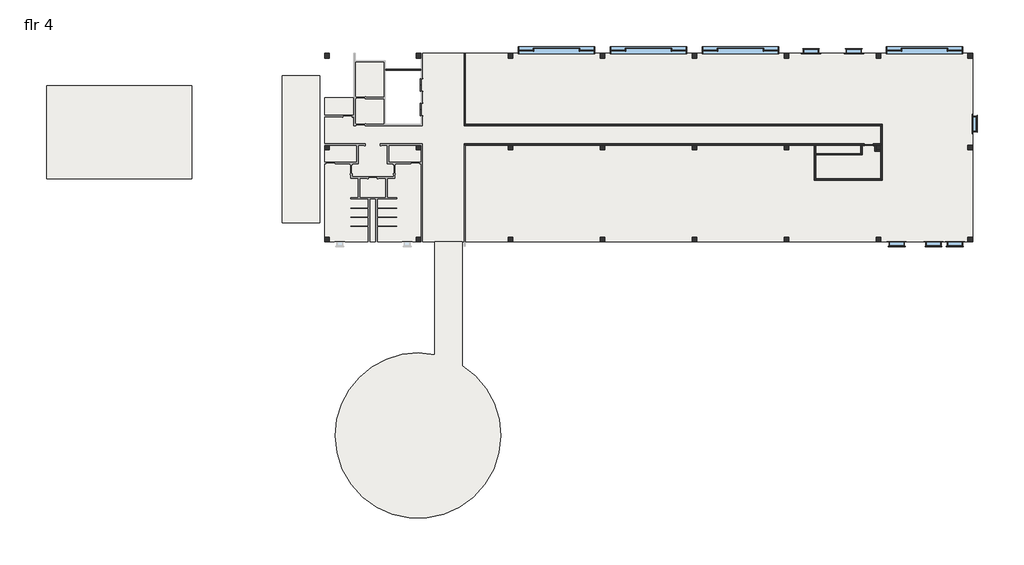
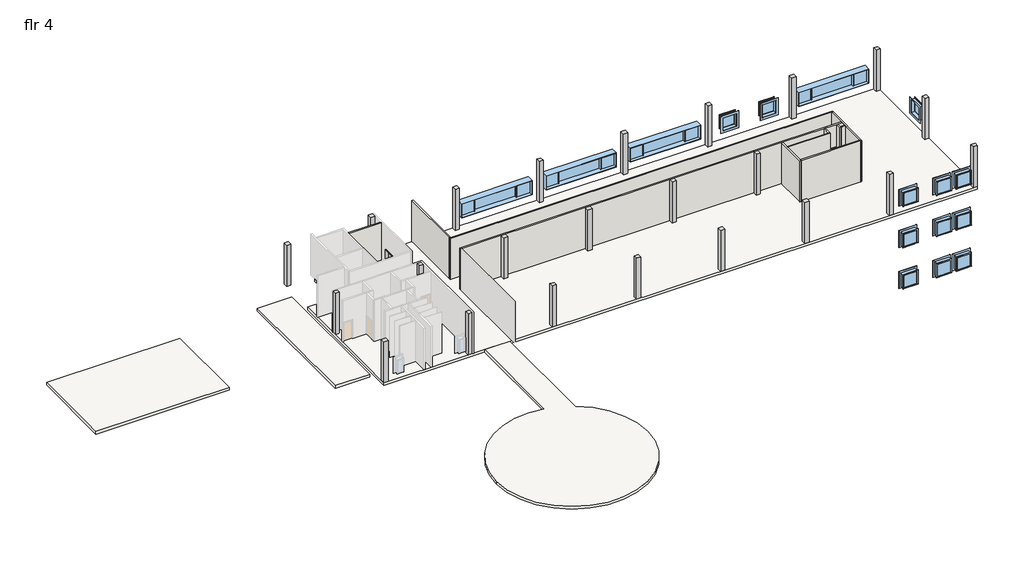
# One storey, part 2 of 2: 24 columns, 20 windows, 11 walls, 3 slabs, 2 proxies, 1 door, 1 roof.
"""IFC4 building model written with IfcOpenShell, lengths in millimetres."""

from ifc_helpers import new_model, si_unit, point, frame, frame_2d, origin, place, context, project, spatial, polyline, circle_curve, trimmed, segment, composite_curve, outline, extrude, faceted_brep, transform, mapped, element, save
from components import proxy_ae548678, column_773d994b, door_9814c99b, fixed_25_x5_r1_fixed_25_x5_r1_81c53d64, fixed_5_x5_e2f24dca

model = new_model("IFC4")

# Units and contexts
model_context = context("Model", 3, world=origin())
ifc_project = project(units=[si_unit("LENGTHUNIT", "METRE", prefix="MILLI")], contexts=[model_context])

# Site, building, storey
site = spatial("IfcSite", under=ifc_project)
building = spatial("IfcBuilding", under=site)
storey = spatial("IfcBuildingStorey", under=building, Name="flr 4", Elevation=14935.2)

# Proxies
placement = place(None, origin())
proxy_shape = proxy_ae548678(model_context)
element("IfcBuildingElementProxy", 1, Name="Elevator-Center : 72\" x 114\" Hospital min.", ObjectType="Elevator-Center : 72\" x 114\" Hospital min.", at=placement, inside=storey, context=model_context, shape_type="MappedRepresentation", body=[
    mapped(proxy_shape, transform((-105880.840902, 38348.4927472, 14935.2), x_axis=(0.0, 1.0, 0.0), y_axis=(-1.0, 0.0, 0.0), z_axis=(0.0, 0.0, 1.0))),
])
element("IfcBuildingElementProxy", 2, Name="Elevator-Center : 72\" x 114\" Hospital min.", ObjectType="Elevator-Center : 72\" x 114\" Hospital min.", at=placement, inside=storey, context=model_context, shape_type="MappedRepresentation", body=[
    mapped(proxy_shape, transform((-105880.840902, 40786.8927472, 14935.2), x_axis=(0.0, 1.0, 0.0), y_axis=(-1.0, 0.0, 0.0), z_axis=(0.0, 0.0, 1.0))),
])

# Columns
element("IfcColumn", 3, ObjectType="Rectangular Column : 18\" x 18\"", at=placement, inside=storey, context=model_context, shape_type="SweptSolid", body=[
    extrude(outline(polyline([(-105950.690902, 25543.0071029), (-105950.690902, 25085.8071029), (-106407.890902, 25085.8071029), (-106407.890902, 25543.0071029), (-105950.690902, 25543.0071029)])), frame((0.0, 0.0, 14935.2), z_axis=(0.0, 0.0, 1.0), x_axis=(1.0, 0.0, 0.0)), (0.0, 0.0, 1.0), 4724.4),
])
element("IfcColumn", 4, ObjectType="Rectangular Column : 18\" x 18\"", at=placement, inside=storey, context=model_context, shape_type="SweptSolid", body=[
    extrude(outline(polyline([(-115094.690902, 34687.0071029), (-115094.690902, 34229.8071029), (-115551.890902, 34229.8071029), (-115551.890902, 34687.0071029), (-115094.690902, 34687.0071029)])), frame((0.0, 0.0, 14935.2), z_axis=(0.0, 0.0, 1.0), x_axis=(1.0, 0.0, 0.0)), (0.0, 0.0, 1.0), 4724.4),
])
element("IfcColumn", 5, ObjectType="Rectangular Column : 18\" x 18\"", at=placement, inside=storey, context=model_context, shape_type="SweptSolid", body=[
    extrude(outline(polyline([(-105950.690902, 34687.0071029), (-105950.690902, 34229.8071029), (-106407.890902, 34229.8071029), (-106407.890902, 34687.0071029), (-105950.690902, 34687.0071029)])), frame((0.0, 0.0, 14935.2), z_axis=(0.0, 0.0, 1.0), x_axis=(1.0, 0.0, 0.0)), (0.0, 0.0, 1.0), 4724.4),
])
element("IfcColumn", 6, ObjectType="Rectangular Column : 18\" x 18\"", at=placement, inside=storey, context=model_context, shape_type="SweptSolid", body=[
    extrude(outline(polyline([(-96806.690902, 34687.0071029), (-96806.690902, 34229.8071029), (-97263.890902, 34229.8071029), (-97263.890902, 34687.0071029), (-96806.690902, 34687.0071029)])), frame((0.0, 0.0, 14935.2), z_axis=(0.0, 0.0, 1.0), x_axis=(1.0, 0.0, 0.0)), (0.0, 0.0, 1.0), 4724.4),
])
element("IfcColumn", 7, ObjectType="Rectangular Column : 18\" x 18\"", at=placement, inside=storey, context=model_context, shape_type="SweptSolid", body=[
    extrude(outline(polyline([(-87662.690902, 34687.0071029), (-87662.690902, 34229.8071029), (-88119.890902, 34229.8071029), (-88119.890902, 34687.0071029), (-87662.690902, 34687.0071029)])), frame((0.0, 0.0, 14935.2), z_axis=(0.0, 0.0, 1.0), x_axis=(1.0, 0.0, 0.0)), (0.0, 0.0, 1.0), 4724.4),
])
element("IfcColumn", 8, ObjectType="Rectangular Column : 18\" x 18\"", at=placement, inside=storey, context=model_context, shape_type="SweptSolid", body=[
    extrude(outline(polyline([(-78518.690902, 34687.0071029), (-78518.690902, 34229.8071029), (-78975.890902, 34229.8071029), (-78975.890902, 34687.0071029), (-78518.690902, 34687.0071029)])), frame((0.0, 0.0, 14935.2), z_axis=(0.0, 0.0, 1.0), x_axis=(1.0, 0.0, 0.0)), (0.0, 0.0, 1.0), 4724.4),
])
element("IfcColumn", 9, ObjectType="Rectangular Column : 18\" x 18\"", at=placement, inside=storey, context=model_context, shape_type="SweptSolid", body=[
    extrude(outline(polyline([(-69374.690902, 34687.0071029), (-69374.690902, 34229.8071029), (-69831.890902, 34229.8071029), (-69831.890902, 34687.0071029), (-69374.690902, 34687.0071029)])), frame((0.0, 0.0, 14935.2), z_axis=(0.0, 0.0, 1.0), x_axis=(1.0, 0.0, 0.0)), (0.0, 0.0, 1.0), 4724.4),
])
element("IfcColumn", 10, ObjectType="Rectangular Column : 18\" x 18\"", at=placement, inside=storey, context=model_context, shape_type="SweptSolid", body=[
    extrude(outline(polyline([(-60230.690902, 34687.0071029), (-60230.690902, 34229.8071029), (-60687.890902, 34229.8071029), (-60687.890902, 34687.0071029), (-60230.690902, 34687.0071029)])), frame((0.0, 0.0, 14935.2), z_axis=(0.0, 0.0, 1.0), x_axis=(1.0, 0.0, 0.0)), (0.0, 0.0, 1.0), 4724.4),
])
element("IfcColumn", 11, ObjectType="Rectangular Column : 18\" x 18\"", at=placement, inside=storey, context=model_context, shape_type="SweptSolid", body=[
    extrude(outline(polyline([(-105950.690902, 43831.0071029), (-105950.690902, 43373.8071029), (-106407.890902, 43373.8071029), (-106407.890902, 43831.0071029), (-105950.690902, 43831.0071029)])), frame((0.0, 0.0, 14935.2), z_axis=(0.0, 0.0, 1.0), x_axis=(1.0, 0.0, 0.0)), (0.0, 0.0, 1.0), 4724.4),
])
column_shape = column_773d994b(model_context)
element("IfcColumn", 12, ObjectType="Rectangular Column : 18\" x 18\"", at=placement, inside=storey, context=model_context, shape_type="MappedRepresentation", body=[
    mapped(column_shape, transform((-115323.290902, 25314.4071029, 0.0), x_axis=(1.0, 0.0, 0.0), y_axis=(0.0, 1.0, 0.0), z_axis=(0.0, 0.0, 1.0))),
])
element("IfcColumn", 13, ObjectType="Rectangular Column : 18\" x 18\"", at=placement, inside=storey, context=model_context, shape_type="MappedRepresentation", body=[
    mapped(column_shape, transform((-97035.290902, 25314.4071029, 0.0), x_axis=(1.0, 0.0, 0.0), y_axis=(0.0, 1.0, 0.0), z_axis=(0.0, 0.0, 1.0))),
])
element("IfcColumn", 14, ObjectType="Rectangular Column : 18\" x 18\"", at=placement, inside=storey, context=model_context, shape_type="MappedRepresentation", body=[
    mapped(column_shape, transform((-87891.290902, 25314.4071029, 0.0), x_axis=(1.0, 0.0, 0.0), y_axis=(0.0, 1.0, 0.0), z_axis=(0.0, 0.0, 1.0))),
])
element("IfcColumn", 15, ObjectType="Rectangular Column : 18\" x 18\"", at=placement, inside=storey, context=model_context, shape_type="MappedRepresentation", body=[
    mapped(column_shape, transform((-78747.290902, 25314.4071029, 0.0), x_axis=(1.0, 0.0, 0.0), y_axis=(0.0, 1.0, 0.0), z_axis=(0.0, 0.0, 1.0))),
])
element("IfcColumn", 16, ObjectType="Rectangular Column : 18\" x 18\"", at=placement, inside=storey, context=model_context, shape_type="MappedRepresentation", body=[
    mapped(column_shape, transform((-69603.290902, 25314.4071029, 0.0), x_axis=(1.0, 0.0, 0.0), y_axis=(0.0, 1.0, 0.0), z_axis=(0.0, 0.0, 1.0))),
])
element("IfcColumn", 17, ObjectType="Rectangular Column : 18\" x 18\"", at=placement, inside=storey, context=model_context, shape_type="MappedRepresentation", body=[
    mapped(column_shape, transform((-60459.290902, 25314.4071029, 0.0), x_axis=(1.0, 0.0, 0.0), y_axis=(0.0, 1.0, 0.0), z_axis=(0.0, 0.0, 1.0))),
])
element("IfcColumn", 18, ObjectType="Rectangular Column : 18\" x 18\"", at=placement, inside=storey, context=model_context, shape_type="MappedRepresentation", body=[
    mapped(column_shape, transform((-51315.290902, 25314.4071029, 0.0), x_axis=(1.0, 0.0, 0.0), y_axis=(0.0, 1.0, 0.0), z_axis=(0.0, 0.0, 1.0))),
])
element("IfcColumn", 19, ObjectType="Rectangular Column : 18\" x 18\"", at=placement, inside=storey, context=model_context, shape_type="MappedRepresentation", body=[
    mapped(column_shape, transform((-51315.290902, 34458.4071029, 0.0), x_axis=(1.0, 0.0, 0.0), y_axis=(0.0, 1.0, 0.0), z_axis=(0.0, 0.0, 1.0))),
])
element("IfcColumn", 20, ObjectType="Rectangular Column : 18\" x 18\"", at=placement, inside=storey, context=model_context, shape_type="MappedRepresentation", body=[
    mapped(column_shape, transform((-115323.290902, 43602.4071029, 0.0), x_axis=(1.0, 0.0, 0.0), y_axis=(0.0, 1.0, 0.0), z_axis=(0.0, 0.0, 1.0))),
])
element("IfcColumn", 21, ObjectType="Rectangular Column : 18\" x 18\"", at=placement, inside=storey, context=model_context, shape_type="MappedRepresentation", body=[
    mapped(column_shape, transform((-97035.290902, 43602.4071029, 0.0), x_axis=(1.0, 0.0, 0.0), y_axis=(0.0, 1.0, 0.0), z_axis=(0.0, 0.0, 1.0))),
])
element("IfcColumn", 22, ObjectType="Rectangular Column : 18\" x 18\"", at=placement, inside=storey, context=model_context, shape_type="MappedRepresentation", body=[
    mapped(column_shape, transform((-87891.290902, 43602.4071029, 0.0), x_axis=(1.0, 0.0, 0.0), y_axis=(0.0, 1.0, 0.0), z_axis=(0.0, 0.0, 1.0))),
])
element("IfcColumn", 23, ObjectType="Rectangular Column : 18\" x 18\"", at=placement, inside=storey, context=model_context, shape_type="MappedRepresentation", body=[
    mapped(column_shape, transform((-78747.290902, 43602.4071029, 0.0), x_axis=(1.0, 0.0, 0.0), y_axis=(0.0, 1.0, 0.0), z_axis=(0.0, 0.0, 1.0))),
])
element("IfcColumn", 24, ObjectType="Rectangular Column : 18\" x 18\"", at=placement, inside=storey, context=model_context, shape_type="MappedRepresentation", body=[
    mapped(column_shape, transform((-69603.290902, 43602.4071029, 0.0), x_axis=(1.0, 0.0, 0.0), y_axis=(0.0, 1.0, 0.0), z_axis=(0.0, 0.0, 1.0))),
])
element("IfcColumn", 25, ObjectType="Rectangular Column : 18\" x 18\"", at=placement, inside=storey, context=model_context, shape_type="MappedRepresentation", body=[
    mapped(column_shape, transform((-60459.290902, 43602.4071029, 0.0), x_axis=(1.0, 0.0, 0.0), y_axis=(0.0, 1.0, 0.0), z_axis=(0.0, 0.0, 1.0))),
])
element("IfcColumn", 26, ObjectType="Rectangular Column : 18\" x 18\"", at=placement, inside=storey, context=model_context, shape_type="MappedRepresentation", body=[
    mapped(column_shape, transform((-51315.290902, 43602.4071029, 0.0), x_axis=(1.0, 0.0, 0.0), y_axis=(0.0, 1.0, 0.0), z_axis=(0.0, 0.0, 1.0))),
])

# Door
door_shape = door_9814c99b(model_context)
element("IfcDoor", 27, ObjectType="Sgl Flush : 36\" x 84\"", at=placement, inside=storey, context=model_context, shape_type="MappedRepresentation", body=[
    mapped(door_shape, transform((-61399.090902, 34756.8571029, 14935.2), x_axis=(1.0, 0.0, 0.0), y_axis=(0.0, 1.0, 0.0), z_axis=(0.0, 0.0, 1.0))),
])

# Roof
element("IfcRoof", 28, ObjectType="Generic - 12\"", at=placement, inside=storey, context=model_context, shape_type="SweptSolid", body=[
    extrude(outline(polyline([(-143209.315902, 40630.6071029), (-128740.840902, 40630.6071029), (-128740.840902, 31340.7512968), (-143209.315902, 31340.7512968), (-143209.315902, 40630.6071029)])), frame((0.0, 0.0, 14935.2), z_axis=(0.0, 0.0, 1.0), x_axis=(1.0, 0.0, 0.0)), (0.0, 0.0, 1.0), 304.8),
])

# Slabs
element("IfcSlab", 29, ObjectType="Generic - 12\"", at=placement, inside=storey, context=model_context, shape_type="SweptSolid", body=[
    extrude(outline(polyline([(-119739.715902, 41618.0321029), (-116007.8828209, 41618.0321029), (-116007.8828209, 26993.9821029), (-119739.715902, 26993.9821029), (-119739.715902, 41618.0321029)])), frame((0.0, 0.0, 14630.4), z_axis=(0.0, 0.0, 1.0), x_axis=(1.0, 0.0, 0.0)), (0.0, 0.0, 1.0), 304.8),
])
element("IfcSlab", 30, ObjectType="Generic - 12\"", at=placement, inside=storey, context=model_context, shape_type="SweptSolid", body=[
    extrude(outline(composite_curve([segment(trimmed(circle_curve(frame_2d((-106255.490902, 5807.2071029)), 8229.6), [point((-101864.8074925, 12767.6823279))], [point((-98025.890902, 5807.2071029))], False, "CARTESIAN"), True, "CONTINUOUS"), segment(trimmed(circle_curve(frame_2d((-106255.490902, 5807.2071029)), 8229.6), [point((-98025.890902, 5807.2071029))], [point((-114485.090902, 5807.2071029))], False, "CARTESIAN"), True, "CONTINUOUS"), segment(trimmed(circle_curve(frame_2d((-106255.490902, 5807.2071029)), 8229.6), [point((-114485.090902, 5807.2071029))], [point((-104601.6574925, 13868.9160541))], False, "CARTESIAN"), True, "CONTINUOUS"), segment(polyline([(-104601.6574925, 13868.9160541), (-104601.6574925, 25084.2196029), (-101864.8074925, 25084.2196029), (-101864.8074925, 12767.6823279)]), True, "CONTINUOUS")], self_intersect=False)), frame((0.0, 0.0, 14630.4), z_axis=(0.0, 0.0, 1.0), x_axis=(1.0, 0.0, 0.0)), (0.0, 0.0, 1.0), 304.8),
])
element("IfcSlab", 31, ObjectType="Generic - 12\"", at=placement, inside=storey, context=model_context, shape_type="SweptSolid", body=[
    extrude(outline(polyline([(-51085.103402, 43832.5946029), (-51085.103402, 25084.2196029), (-115553.8578209, 25084.2196029), (-115553.8578209, 39436.8071029), (-112649.940902, 39436.8071029), (-112649.940902, 43119.8071029), (-109493.990902, 43119.8071029), (-109493.990902, 36795.2071029), (-105950.690902, 36795.2071029), (-105950.690902, 43832.5946029), (-51085.103402, 43832.5946029)])), frame((0.0, 0.0, 14630.4), z_axis=(0.0, 0.0, 1.0), x_axis=(1.0, 0.0, 0.0)), (0.0, 0.0, 1.0), 304.8),
])

# Walls
element("IfcWall", 32, ObjectType="Interior - 5 1/2\" Partition (1-hr)", at=placement, inside=storey, context=model_context, shape_type="SweptSolid", body=[
    extrude(outline(polyline([(-105950.690902, 42141.9071029), (-109493.990902, 42141.9071029), (-109493.990902, 42281.6071029), (-105950.690902, 42281.6071029), (-105950.690902, 42141.9071029)])), frame((0.0, 0.0, 14935.2), z_axis=(0.0, 0.0, 1.0), x_axis=(1.0, 0.0, 0.0)), (0.0, 0.0, 1.0), 4724.4),
])
element("IfcWall", 33, ObjectType="Interior - 5 1/2\" Partition (1-hr)", at=placement, inside=storey, context=model_context, shape_type="Brep", body=[
    faceted_brep([(-60941.890902, 34687.0071029, 17068.8), (-60941.890902, 34687.0071029, 14935.2), (-60827.590902, 34687.0071029, 14935.2), (-60687.890902, 34687.0071029, 14935.2), (-60230.690902, 34687.0071029, 14935.2), (-60230.690902, 34687.0071029, 19659.6), (-60687.890902, 34687.0071029, 19659.6), (-60827.590902, 34687.0071029, 19659.6), (-62065.840902, 34687.0071029, 19659.6), (-62205.540902, 34687.0071029, 19659.6), (-66688.640902, 34687.0071029, 19659.6), (-66828.340902, 34687.0071029, 19659.6), (-101537.440902, 34687.0071029, 19659.6), (-101677.140902, 34687.0071029, 19659.6), (-101677.140902, 34687.0071029, 14935.2), (-101537.440902, 34687.0071029, 14935.2), (-66828.340902, 34687.0071029, 14935.2), (-66688.640902, 34687.0071029, 14935.2), (-62205.540902, 34687.0071029, 14935.2), (-62065.840902, 34687.0071029, 14935.2), (-61856.290902, 34687.0071029, 14935.2), (-61856.290902, 34687.0071029, 17068.8), (-60230.690902, 34826.7071029, 14935.2), (-60941.890902, 34826.7071029, 14935.2), (-60941.890902, 34826.7071029, 17068.8), (-61856.290902, 34826.7071029, 17068.8), (-61856.290902, 34826.7071029, 14935.2), (-101677.140902, 34826.7071029, 14935.2), (-101677.140902, 34826.7071029, 19659.6), (-60230.690902, 34826.7071029, 19659.6)], [[[0, 1, 2, 3, 4, 5, 6, 7, 8, 9, 10, 11, 12, 13, 14, 15, 16, 17, 18, 19, 20, 21]], [[22, 23, 24, 25, 26, 27, 28, 29]], [[4, 3, 2, 1, 23, 22]], [[20, 19, 18, 17, 16, 15, 14, 27, 26]], [[13, 12, 11, 10, 9, 8, 7, 6, 5, 29, 28]], [[14, 13, 28, 27]], [[5, 4, 22, 29]], [[24, 23, 1, 0]], [[25, 24, 0, 21]], [[26, 25, 21, 20]]]),
])
element("IfcWall", 34, ObjectType="Interior - 5 1/2\" Partition (1-hr)", at=placement, inside=storey, context=model_context, shape_type="Brep", body=[
    faceted_brep([(-101677.140902, 36655.5071029, 14935.2), (-60230.690902, 36655.5071029, 14935.2), (-60090.990902, 36655.5071029, 14935.2), (-60090.990902, 36655.5071029, 19659.6), (-60230.690902, 36655.5071029, 19659.6), (-101677.140902, 36655.5071029, 19659.6), (-101677.140902, 36795.2071029, 14935.2), (-101677.140902, 36795.2071029, 19659.6), (-101537.440902, 36795.2071029, 19659.6), (-60090.990902, 36795.2071029, 19659.6), (-60090.990902, 36795.2071029, 14935.2), (-101537.440902, 36795.2071029, 14935.2)], [[[0, 1, 2, 3, 4, 5]], [[6, 7, 8, 9, 10, 11]], [[2, 1, 0, 6, 11, 10]], [[5, 4, 3, 9, 8, 7]], [[0, 5, 7, 6]], [[3, 2, 10, 9]]]),
])
element("IfcWall", 35, ObjectType="Interior - 5 1/2\" Partition (1-hr)", at=placement, inside=storey, context=model_context, shape_type="SweptSolid", body=[
    extrude(outline(polyline([(-101537.440902, 43832.5946029), (-101537.440902, 36795.2071029), (-101677.140902, 36795.2071029), (-101677.140902, 43832.5946029), (-101537.440902, 43832.5946029)])), frame((0.0, 0.0, 14935.2), z_axis=(0.0, 0.0, 1.0), x_axis=(1.0, 0.0, 0.0)), (0.0, 0.0, 1.0), 4724.4),
])
element("IfcWall", 36, ObjectType="Interior - 5 1/2\" Partition (1-hr)", at=placement, inside=storey, context=model_context, shape_type="Brep", body=[
    faceted_brep([(-60230.690902, 36655.5071029, 14935.2), (-60230.690902, 34826.7071029, 14935.2), (-60230.690902, 34687.0071029, 14935.2), (-60230.690902, 34229.8071029, 14935.2), (-60230.690902, 34090.1071029, 14935.2), (-60230.690902, 31372.3071029, 14935.2), (-60230.690902, 31232.6071029, 14935.2), (-60230.690902, 31232.6071029, 19659.6), (-60230.690902, 31372.3071029, 19659.6), (-60230.690902, 34090.1071029, 19659.6), (-60230.690902, 34229.8071029, 19659.6), (-60230.690902, 34687.0071029, 19659.6), (-60230.690902, 34826.7071029, 19659.6), (-60230.690902, 36655.5071029, 19659.6), (-60090.990902, 36655.5071029, 14935.2), (-60090.990902, 36655.5071029, 19659.6), (-60090.990902, 31232.6071029, 19659.6), (-60090.990902, 31232.6071029, 14935.2)], [[[0, 1, 2, 3, 4, 5, 6, 7, 8, 9, 10, 11, 12, 13]], [[14, 15, 16, 17]], [[6, 5, 4, 3, 2, 1, 0, 14, 17]], [[13, 12, 11, 10, 9, 8, 7, 16, 15]], [[7, 6, 17, 16]], [[0, 13, 15, 14]]]),
])
element("IfcWall", 37, ObjectType="Interior - 5 1/2\" Partition (1-hr)", at=placement, inside=storey, context=model_context, shape_type="SweptSolid", body=[
    extrude(outline(polyline([(-62205.540902, 33867.8571029), (-62205.540902, 34687.0071029), (-62065.840902, 34687.0071029), (-62065.840902, 33867.8571029), (-62205.540902, 33867.8571029)])), frame((0.0, 0.0, 14935.2), z_axis=(0.0, 0.0, 1.0), x_axis=(1.0, 0.0, 0.0)), (0.0, 0.0, 1.0), 4724.4),
])
element("IfcWall", 38, ObjectType="Interior - 5 1/2\" Partition (1-hr)", at=placement, inside=storey, context=model_context, shape_type="Brep", body=[
    faceted_brep([(-60827.590902, 34687.0071029, 14935.2), (-60827.590902, 34090.1071029, 14935.2), (-60827.590902, 34090.1071029, 19659.6), (-60827.590902, 34687.0071029, 19659.6), (-60687.890902, 34687.0071029, 14935.2), (-60687.890902, 34687.0071029, 19659.6), (-60687.890902, 34229.8071029, 19659.6), (-60687.890902, 34090.1071029, 19659.6), (-60687.890902, 34090.1071029, 14935.2), (-60687.890902, 34229.8071029, 14935.2)], [[[0, 1, 2, 3]], [[4, 5, 6, 7, 8, 9]], [[1, 0, 4, 9, 8]], [[3, 2, 7, 6, 5]], [[2, 1, 8, 7]], [[0, 3, 5, 4]]]),
])
element("IfcWall", 39, ObjectType="Interior - 5 1/2\" Partition (1-hr)", at=placement, inside=storey, context=model_context, shape_type="SweptSolid", body=[
    extrude(outline(polyline([(-60687.890902, 34229.8071029), (-60230.690902, 34229.8071029), (-60230.690902, 34090.1071029), (-60687.890902, 34090.1071029), (-60687.890902, 34229.8071029)])), frame((0.0, 0.0, 14935.2), z_axis=(0.0, 0.0, 1.0), x_axis=(1.0, 0.0, 0.0)), (0.0, 0.0, 1.0), 4724.4),
])
element("IfcWall", 40, ObjectType="Interior - 5 1/2\" Partition (1-hr)", at=placement, inside=storey, context=model_context, shape_type="Brep", body=[
    faceted_brep([(-66828.340902, 34687.0071029, 14935.2), (-66828.340902, 31232.6071029, 14935.2), (-66828.340902, 31232.6071029, 19659.6), (-66828.340902, 34687.0071029, 19659.6), (-66688.640902, 34687.0071029, 14935.2), (-66688.640902, 34687.0071029, 19659.6), (-66688.640902, 33867.8571029, 19659.6), (-66688.640902, 33728.1571029, 19659.6), (-66688.640902, 31372.3071029, 19659.6), (-66688.640902, 31232.6071029, 19659.6), (-66688.640902, 31232.6071029, 14935.2), (-66688.640902, 31372.3071029, 14935.2), (-66688.640902, 33728.1571029, 14935.2), (-66688.640902, 33867.8571029, 14935.2)], [[[0, 1, 2, 3]], [[4, 5, 6, 7, 8, 9, 10, 11, 12, 13]], [[1, 0, 4, 13, 12, 11, 10]], [[3, 2, 9, 8, 7, 6, 5]], [[2, 1, 10, 9]], [[0, 3, 5, 4]]]),
])
element("IfcWall", 41, ObjectType="Interior - 5 1/2\" Partition (1-hr)", at=placement, inside=storey, context=model_context, shape_type="SweptSolid", body=[
    extrude(outline(polyline([(-60230.690902, 31232.6071029), (-66688.640902, 31232.6071029), (-66688.640902, 31372.3071029), (-60230.690902, 31372.3071029), (-60230.690902, 31232.6071029)])), frame((0.0, 0.0, 14935.2), z_axis=(0.0, 0.0, 1.0), x_axis=(1.0, 0.0, 0.0)), (0.0, 0.0, 1.0), 4724.4),
])
element("IfcWall", 42, ObjectType="Interior - 5 1/2\" Partition (1-hr)", at=placement, inside=storey, context=model_context, shape_type="Brep", body=[
    faceted_brep([(-66688.640902, 33728.1571029, 14935.2), (-62065.840902, 33728.1571029, 14935.2), (-62065.840902, 33728.1571029, 19659.6), (-66688.640902, 33728.1571029, 19659.6), (-66688.640902, 33867.8571029, 14935.2), (-66688.640902, 33867.8571029, 19659.6), (-62205.540902, 33867.8571029, 19659.6), (-62065.840902, 33867.8571029, 19659.6), (-62065.840902, 33867.8571029, 14935.2), (-62205.540902, 33867.8571029, 14935.2)], [[[0, 1, 2, 3]], [[4, 5, 6, 7, 8, 9]], [[1, 0, 4, 9, 8]], [[3, 2, 7, 6, 5]], [[2, 1, 8, 7]], [[0, 3, 5, 4]]]),
])

# Windows
fixed_25_x5_r1_fixed_25_x5_r1_shape = fixed_25_x5_r1_fixed_25_x5_r1_81c53d64(model_context)
element("IfcWindow", 43, ObjectType="Fixed 25'x5'-r1 : Fixed 25'x5'-r1", at=placement, inside=storey, context=model_context, shape_type="MappedRepresentation", body=[
    mapped(fixed_25_x5_r1_fixed_25_x5_r1_shape, transform((-73921.290902, 44059.6071029, 14935.2), x_axis=(1.0, 0.0, 0.0), y_axis=(0.0, 1.0, 0.0), z_axis=(0.0, 0.0, 1.0))),
])
element("IfcWindow", 44, ObjectType="Fixed 25'x5'-r1 : Fixed 25'x5'-r1", at=placement, inside=storey, context=model_context, shape_type="MappedRepresentation", body=[
    mapped(fixed_25_x5_r1_fixed_25_x5_r1_shape, transform((-83065.290902, 44059.6071029, 14935.2), x_axis=(1.0, 0.0, 0.0), y_axis=(0.0, 1.0, 0.0), z_axis=(0.0, 0.0, 1.0))),
])
element("IfcWindow", 45, ObjectType="Fixed 25'x5'-r1 : Fixed 25'x5'-r1", at=placement, inside=storey, context=model_context, shape_type="MappedRepresentation", body=[
    mapped(fixed_25_x5_r1_fixed_25_x5_r1_shape, transform((-92209.290902, 44059.6071029, 14935.2), x_axis=(1.0, 0.0, 0.0), y_axis=(0.0, 1.0, 0.0), z_axis=(0.0, 0.0, 1.0))),
])
element("IfcWindow", 46, ObjectType="Fixed 25'x5'-r1 : Fixed 25'x5'-r1", at=placement, inside=storey, context=model_context, shape_type="MappedRepresentation", body=[
    mapped(fixed_25_x5_r1_fixed_25_x5_r1_shape, transform((-55633.290902, 44059.6071029, 14935.2), x_axis=(1.0, 0.0, 0.0), y_axis=(0.0, 1.0, 0.0), z_axis=(0.0, 0.0, 1.0))),
])
fixed_5_x5_shape = fixed_5_x5_e2f24dca(model_context)
element("IfcWindow", 47, ObjectType="Fixed : 5'x5'", at=placement, inside=storey, context=model_context, shape_type="MappedRepresentation", body=[
    mapped(fixed_5_x5_shape, transform((-50858.090902, 36782.5071029, 14935.2), x_axis=(0.0, -1.0, 0.0), y_axis=(1.0, 0.0, 0.0), z_axis=(0.0, 0.0, 1.0))),
])
element("IfcWindow", 48, ObjectType="Fixed : 5'x5'", at=placement, inside=storey, context=model_context, shape_type="MappedRepresentation", body=[
    mapped(fixed_5_x5_shape, transform((-58674.940902, 24857.2071029, 14935.2), x_axis=(-1.0, 0.0, 0.0), y_axis=(0.0, -1.0, 0.0), z_axis=(0.0, 0.0, 1.0))),
])
element("IfcWindow", 49, ObjectType="Fixed : 5'x5'", at=placement, inside=storey, context=model_context, shape_type="MappedRepresentation", body=[
    mapped(fixed_5_x5_shape, transform((-55017.340902, 24857.2071029, 14935.2), x_axis=(-1.0, 0.0, 0.0), y_axis=(0.0, -1.0, 0.0), z_axis=(0.0, 0.0, 1.0))),
])
element("IfcWindow", 50, ObjectType="Fixed : 5'x5'", at=placement, inside=storey, context=model_context, shape_type="MappedRepresentation", body=[
    mapped(fixed_5_x5_shape, transform((-52883.740902, 24857.2071029, 14935.2), x_axis=(-1.0, 0.0, 0.0), y_axis=(0.0, -1.0, 0.0), z_axis=(0.0, 0.0, 1.0))),
])
element("IfcWindow", 51, ObjectType="Fixed : 5'x5'", at=placement, inside=storey, context=model_context, shape_type="MappedRepresentation", body=[
    mapped(fixed_5_x5_shape, transform((-58674.940902, 24857.2071029, 10210.8), x_axis=(-1.0, 0.0, 0.0), y_axis=(0.0, -1.0, 0.0), z_axis=(0.0, 0.0, 1.0))),
])
element("IfcWindow", 52, ObjectType="Fixed : 5'x5'", at=placement, inside=storey, context=model_context, shape_type="MappedRepresentation", body=[
    mapped(fixed_5_x5_shape, transform((-55017.340902, 24857.2071029, 10210.8), x_axis=(-1.0, 0.0, 0.0), y_axis=(0.0, -1.0, 0.0), z_axis=(0.0, 0.0, 1.0))),
])
element("IfcWindow", 53, ObjectType="Fixed : 5'x5'", at=placement, inside=storey, context=model_context, shape_type="MappedRepresentation", body=[
    mapped(fixed_5_x5_shape, transform((-52883.740902, 24857.2071029, 10210.8), x_axis=(-1.0, 0.0, 0.0), y_axis=(0.0, -1.0, 0.0), z_axis=(0.0, 0.0, 1.0))),
])
element("IfcWindow", 54, ObjectType="Fixed : 5'x5'", at=placement, inside=storey, context=model_context, shape_type="MappedRepresentation", body=[
    mapped(fixed_5_x5_shape, transform((-58674.940902, 24857.2071029, 5486.4), x_axis=(-1.0, 0.0, 0.0), y_axis=(0.0, -1.0, 0.0), z_axis=(0.0, 0.0, 1.0))),
])
element("IfcWindow", 55, ObjectType="Fixed : 5'x5'", at=placement, inside=storey, context=model_context, shape_type="MappedRepresentation", body=[
    mapped(fixed_5_x5_shape, transform((-55017.340902, 24857.2071029, 5486.4), x_axis=(-1.0, 0.0, 0.0), y_axis=(0.0, -1.0, 0.0), z_axis=(0.0, 0.0, 1.0))),
])
element("IfcWindow", 56, ObjectType="Fixed : 5'x5'", at=placement, inside=storey, context=model_context, shape_type="MappedRepresentation", body=[
    mapped(fixed_5_x5_shape, transform((-52883.740902, 24857.2071029, 5486.4), x_axis=(-1.0, 0.0, 0.0), y_axis=(0.0, -1.0, 0.0), z_axis=(0.0, 0.0, 1.0))),
])
element("IfcWindow", 57, ObjectType="Fixed : 5'x5'", at=placement, inside=storey, context=model_context, shape_type="MappedRepresentation", body=[
    mapped(fixed_5_x5_shape, transform((-62859.590902, 44059.6071029, 14935.2), x_axis=(1.0, 0.0, 0.0), y_axis=(0.0, 1.0, 0.0), z_axis=(0.0, 0.0, 1.0))),
])
element("IfcWindow", 58, ObjectType="Fixed : 5'x5'", at=placement, inside=storey, context=model_context, shape_type="MappedRepresentation", body=[
    mapped(fixed_5_x5_shape, transform((-67126.790902, 44059.6071029, 14935.2), x_axis=(1.0, 0.0, 0.0), y_axis=(0.0, 1.0, 0.0), z_axis=(0.0, 0.0, 1.0))),
])
element("IfcWindow", 59, ObjectType="Fixed : 5'x5'", at=placement, inside=storey, context=model_context, shape_type="MappedRepresentation", body=[
    mapped(fixed_5_x5_shape, transform((-62859.590902, 44059.6071029, 10210.8), x_axis=(1.0, 0.0, 0.0), y_axis=(0.0, 1.0, 0.0), z_axis=(0.0, 0.0, 1.0))),
])
element("IfcWindow", 60, ObjectType="Fixed : 5'x5'", at=placement, inside=storey, context=model_context, shape_type="MappedRepresentation", body=[
    mapped(fixed_5_x5_shape, transform((-67126.790902, 44059.6071029, 10210.8), x_axis=(1.0, 0.0, 0.0), y_axis=(0.0, 1.0, 0.0), z_axis=(0.0, 0.0, 1.0))),
])
element("IfcWindow", 61, ObjectType="Fixed : 5'x5'", at=placement, inside=storey, context=model_context, shape_type="MappedRepresentation", body=[
    mapped(fixed_5_x5_shape, transform((-62859.590902, 44059.6071029, 5486.4), x_axis=(1.0, 0.0, 0.0), y_axis=(0.0, 1.0, 0.0), z_axis=(0.0, 0.0, 1.0))),
])
element("IfcWindow", 62, ObjectType="Fixed : 5'x5'", at=placement, inside=storey, context=model_context, shape_type="MappedRepresentation", body=[
    mapped(fixed_5_x5_shape, transform((-67126.790902, 44059.6071029, 5486.4), x_axis=(1.0, 0.0, 0.0), y_axis=(0.0, 1.0, 0.0), z_axis=(0.0, 0.0, 1.0))),
])

save(model, "model.ifc")
